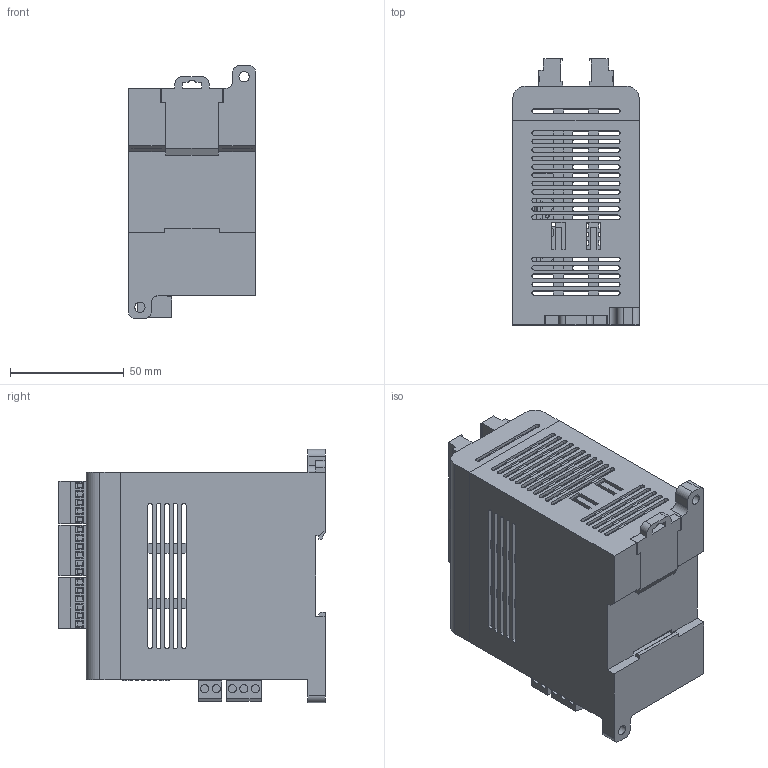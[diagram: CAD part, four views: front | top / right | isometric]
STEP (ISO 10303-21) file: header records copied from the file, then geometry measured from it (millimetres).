
FILE_DESCRIPTION((''),'2;1');
FILE_NAME('ITC-8NT_ASM','2022-07-07T08:53:53',('Administrator'),(''),'CREO PARAMETRIC BY PTC INC, 2019080','CREO PARAMETRIC BY PTC INC, 2019080','');
FILE_SCHEMA(('CONFIG_CONTROL_DESIGN'));
Length unit declared in the file: millimetre
Products named in the file (9): KETI; KAKOU; MIANGAI; 6P; 5P; 36004-00049; 36004-00049-3; BM; ITC-8NT_ASM
Assembly tree (12 placements, depth 2):
  ITC-8NT_ASM
    KETI
    KAKOU
    MIANGAI
    6P  x4
    5P  x2
    36004-00049
    36004-00049-3
    BM
Bounding box: 55.8 x 117 x 111.3 mm (x, y, z)
Volume: 73993 mm3; surface area: 94047.7 mm2
Topology: 13 solids, 13 shells, 1815 faces, 4910 edges, 3172 vertices
Faces by surface type: plane 1592, cylinder 223
Entity records: 37961 total; most frequent: CARTESIAN_POINT 6657, ORIENTED_EDGE 6636, DIRECTION 6050, EDGE_CURVE 3318, VECTOR 2920, LINE 2920, VERTEX_POINT 2172, AXIS2_PLACEMENT_3D 1565
